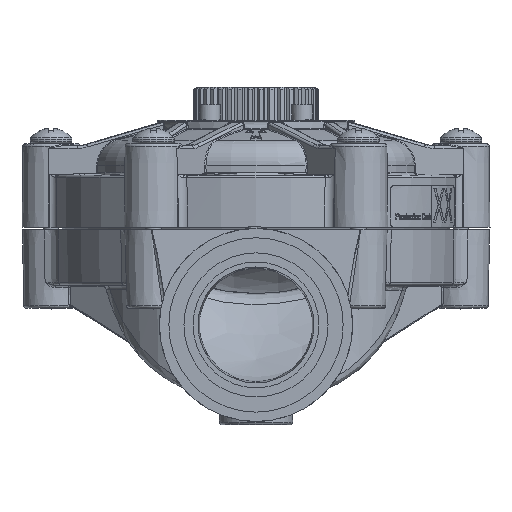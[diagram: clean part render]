
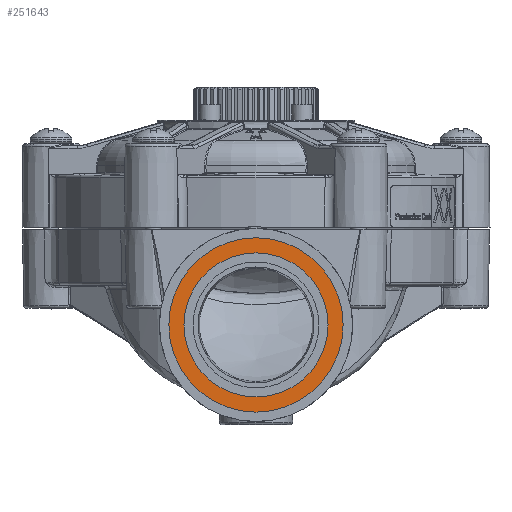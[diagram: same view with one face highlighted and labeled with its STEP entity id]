
A CAD part, left-side view. The second image highlights one B-rep face of the part: STEP entity #251643.
In plain terms, the highlighted planar face has unit normal (-1, 0, 0).
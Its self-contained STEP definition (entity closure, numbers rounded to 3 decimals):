
#248850=CARTESIAN_POINT('',(-56.5,0.,-16.7));
#248851=VERTEX_POINT('Vertex6109',#248850);
#248852=CARTESIAN_POINT('',(-56.5,0.,0.)
);
#248853=DIRECTION('',(1.,0.,0.));
#248854=DIRECTION('',(0.,0.,-1.));
#248855=AXIS2_PLACEMENT_3D('',#248852,#248853,#248854);
#248856=CIRCLE('',#248855,16.7);
#248857=EDGE_CURVE('Edge9934',#248851,#248851,#248856,.T.);
#248917=CARTESIAN_POINT('',(-56.5,0.,-13.8));
#248918=VERTEX_POINT('Vertex6112',#248917);
#248919=CARTESIAN_POINT('',(-56.5,0.,0.)
);
#248920=DIRECTION('',(-1.,0.,0.));
#248921=DIRECTION('',(0.,0.,-1.));
#248922=AXIS2_PLACEMENT_3D('',#248919,#248920,#248921);
#248923=CIRCLE('',#248922,13.8);
#248924=EDGE_CURVE('Edge9937',#248918,#248918,#248923,.T.);
#251632=ORIENTED_EDGE('Edgeuse19784',*,*,#248857,.F.);
#251633=EDGE_LOOP('',(#251632));
#251634=FACE_OUTER_BOUND('',#251633,.T.);
#251635=ORIENTED_EDGE('Edgeuse19783',*,*,#248924,.F.);
#251636=EDGE_LOOP('',(#251635));
#251637=FACE_BOUND('',#251636,.T.);
#251638=CARTESIAN_POINT('',(-56.5,0.,0.));
#251639=DIRECTION('',(-1.,0.,0.));
#251640=DIRECTION('',(0.,0.,1.));
#251641=AXIS2_PLACEMENT_3D('',#251638,#251639,#251640);
#251642=PLANE('',#251641);
#251643=ADVANCED_FACE('Face4099',(#251634,#251637),#251642,.T.);
